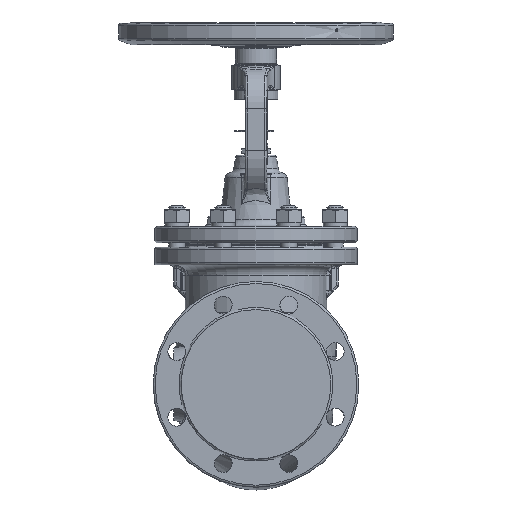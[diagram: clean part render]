
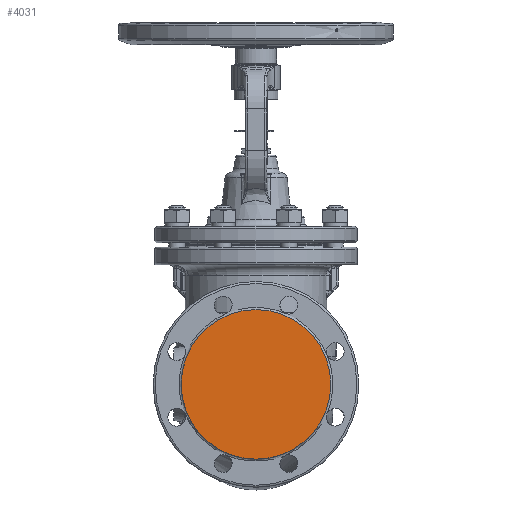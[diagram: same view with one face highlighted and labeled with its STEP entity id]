
A CAD part, front view. The second image highlights one B-rep face of the part: STEP entity #4031.
In plain terms, the highlighted planar face has unit normal (0, -1, 0).
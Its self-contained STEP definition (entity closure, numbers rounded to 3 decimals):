
#2446=FACE_OUTER_BOUND('',#7141,.T.);
#3570=PLANE('',#20895);
#4031=ADVANCED_FACE('',(#2446),#3570,.F.);
#7141=EDGE_LOOP('',(#8907));
#8907=ORIENTED_EDGE('',*,*,#16818,.F.);
#14912=VERTEX_POINT('',#49640);
#16818=EDGE_CURVE('',#14912,#14912,#19707,.T.);
#19707=CIRCLE('',#20894,109.);
#20894=AXIS2_PLACEMENT_3D('',#49639,#23310,#23311);
#20895=AXIS2_PLACEMENT_3D('',#49641,#23312,#23313);
#23310=DIRECTION('',(0.,1.,0.));
#23311=DIRECTION('',(-1.,0.,0.));
#23312=DIRECTION('',(0.,1.,0.));
#23313=DIRECTION('',(-1.,0.,0.));
#49639=CARTESIAN_POINT('',(0.,-240.,0.));
#49640=CARTESIAN_POINT('',(-109.,-240.,0.));
#49641=CARTESIAN_POINT('',(0.,-240.,0.));
